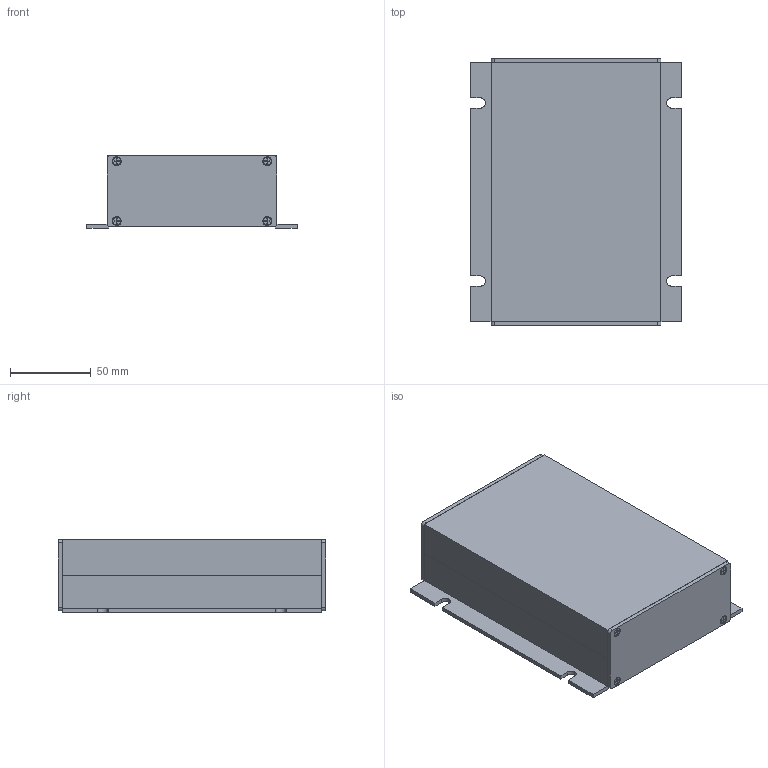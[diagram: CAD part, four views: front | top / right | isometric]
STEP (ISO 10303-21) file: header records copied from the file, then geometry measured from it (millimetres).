
FILE_DESCRIPTION(/* description */ (''),/* implementation_level */ '2;1');
FILE_NAME(/* name */ 'F:\daten\PRODUKTE\TELEMETR\MAW\Mechanik\F\B130xT160xH45_(KOL2_KOH2)\B130xT165xH45.stp',/* time_stamp */ '2016-05-19T15:02:59+02:00',/* author */ ('marquardt'),/* organization */ (''),/* preprocessor_version */ 'ST-DEVELOPER v16.5',/* originating_system */ 'Autodesk Inventor 2017',/* authorisation */ '');
FILE_SCHEMA (('AUTOMOTIVE_DESIGN { 1 0 10303 214 3 1 1 }'));
Length unit declared in the file: millimetre
Products named in the file (5): B130xT160xH45; Kombigehaeuse_KOH6; Kombigehaeuse_KOH2; Front_Rückplatte; ISO 7046-1 - M2,5 x 3 - 4.8 - H
Assembly tree (12 placements, depth 2):
  B130xT160xH45
    Kombigehaeuse_KOH6
    Kombigehaeuse_KOH2
    Front_Rückplatte  x2
    ISO 7046-1 - M2,5 x 3 - 4.8 - H  x8
Bounding box: 130 x 165 x 45 mm (x, y, z)
Volume: 200040.8 mm3; surface area: 158033.9 mm2
Topology: 12 solids, 12 shells, 558 faces, 1558 edges, 1022 vertices
Faces by surface type: plane 342, cone 106, cylinder 78, torus 32
Full cylindrical faces by diameter (mm): 2.224 x8, 2.5 x8, 2.9 x8, 3.2 x2, 4.7 x8
Entity records: 11163 total; most frequent: CARTESIAN_POINT 2028, ORIENTED_EDGE 1918, DIRECTION 1786, EDGE_CURVE 959, LINE 816, VECTOR 816, VERTEX_POINT 647, AXIS2_PLACEMENT_3D 485
